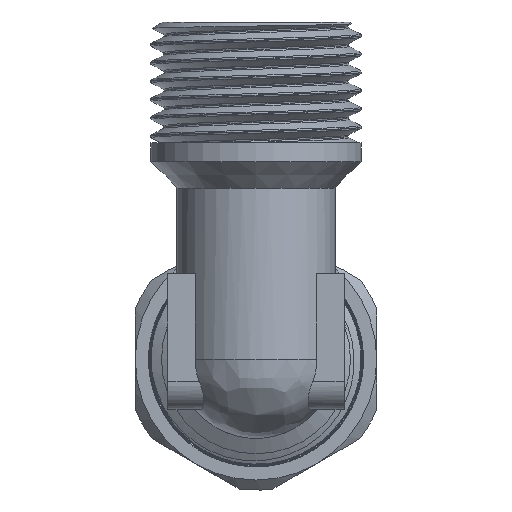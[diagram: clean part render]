
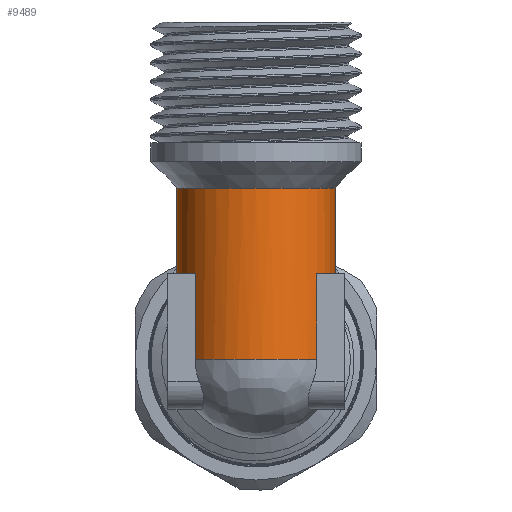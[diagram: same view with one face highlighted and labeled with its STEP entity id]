
A CAD part, front view. The second image highlights one B-rep face of the part: STEP entity #9489.
In plain terms, the highlighted cylindrical face has radius 7.85 mm (diameter 15.7 mm), a full revolution.
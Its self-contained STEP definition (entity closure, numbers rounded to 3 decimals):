
#946=ELLIPSE('',#10126,11.102,7.85);
#1205=CYLINDRICAL_SURFACE('',#10170,7.85);
#1339=FACE_OUTER_BOUND('',#1895,.T.);
#1895=EDGE_LOOP('',(#6689,#6690,#6691,#6692,#6693,#6694,#6695,#6696,#6697,
#6698,#6699,#6700,#6701,#6702));
#2518=LINE('',#12753,#3120);
#2521=LINE('',#12759,#3123);
#2524=LINE('',#12772,#3126);
#2529=LINE('',#12788,#3131);
#2533=LINE('',#12842,#3135);
#3120=VECTOR('',#10887,10.);
#3123=VECTOR('',#10892,10.);
#3126=VECTOR('',#10897,10.);
#3131=VECTOR('',#10904,10.);
#3135=VECTOR('',#10932,7.85);
#3668=CIRCLE('',#10109,7.85);
#3669=CIRCLE('',#10110,7.85);
#3670=CIRCLE('',#10111,7.85);
#3682=CIRCLE('',#10160,7.85);
#3683=CIRCLE('',#10161,7.85);
#3684=CIRCLE('',#10163,7.85);
#3687=CIRCLE('',#10169,7.85);
#3921=VERTEX_POINT('',#12466);
#3922=VERTEX_POINT('',#12468);
#3923=VERTEX_POINT('',#12470);
#3935=VERTEX_POINT('',#12503);
#3936=VERTEX_POINT('',#12505);
#3989=VERTEX_POINT('',#12752);
#3991=VERTEX_POINT('',#12758);
#3993=VERTEX_POINT('',#12764);
#3994=VERTEX_POINT('',#12771);
#3996=VERTEX_POINT('',#12777);
#3998=VERTEX_POINT('',#12786);
#3999=VERTEX_POINT('',#12790);
#4935=EDGE_CURVE('',#3922,#3921,#3668,.T.);
#4936=EDGE_CURVE('',#3923,#3922,#3669,.T.);
#4937=EDGE_CURVE('',#3921,#3923,#3670,.T.);
#4952=EDGE_CURVE('',#3935,#3936,#946,.T.);
#5033=EDGE_CURVE('',#3989,#3936,#2518,.T.);
#5036=EDGE_CURVE('',#3935,#3991,#2521,.T.);
#5040=EDGE_CURVE('',#3994,#3993,#2524,.T.);
#5046=EDGE_CURVE('',#3996,#3998,#2529,.T.);
#5047=EDGE_CURVE('',#3998,#3999,#3682,.T.);
#5049=EDGE_CURVE('',#3999,#3989,#3683,.T.);
#5050=EDGE_CURVE('',#3991,#3994,#3684,.T.);
#5055=EDGE_CURVE('',#3993,#3996,#3687,.T.);
#5056=EDGE_CURVE('',#3923,#3999,#2533,.T.);
#6689=ORIENTED_EDGE('',*,*,#4935,.T.);
#6690=ORIENTED_EDGE('',*,*,#4937,.T.);
#6691=ORIENTED_EDGE('',*,*,#5056,.T.);
#6692=ORIENTED_EDGE('',*,*,#5049,.T.);
#6693=ORIENTED_EDGE('',*,*,#5033,.T.);
#6694=ORIENTED_EDGE('',*,*,#4952,.F.);
#6695=ORIENTED_EDGE('',*,*,#5036,.T.);
#6696=ORIENTED_EDGE('',*,*,#5050,.T.);
#6697=ORIENTED_EDGE('',*,*,#5040,.T.);
#6698=ORIENTED_EDGE('',*,*,#5055,.T.);
#6699=ORIENTED_EDGE('',*,*,#5046,.T.);
#6700=ORIENTED_EDGE('',*,*,#5047,.T.);
#6701=ORIENTED_EDGE('',*,*,#5056,.F.);
#6702=ORIENTED_EDGE('',*,*,#4936,.T.);
#9489=ADVANCED_FACE('',(#1339),#1205,.T.);
#10109=AXIS2_PLACEMENT_3D('',#12469,#10723,#10724);
#10110=AXIS2_PLACEMENT_3D('',#12471,#10725,#10726);
#10111=AXIS2_PLACEMENT_3D('',#12472,#10727,#10728);
#10126=AXIS2_PLACEMENT_3D('',#12506,#10763,#10764);
#10160=AXIS2_PLACEMENT_3D('',#12791,#10907,#10908);
#10161=AXIS2_PLACEMENT_3D('',#12793,#10910,#10911);
#10163=AXIS2_PLACEMENT_3D('',#12795,#10914,#10915);
#10169=AXIS2_PLACEMENT_3D('',#12819,#10928,#10929);
#10170=AXIS2_PLACEMENT_3D('',#12841,#10930,#10931);
#10723=DIRECTION('center_axis',(0.,0.,-1.));
#10724=DIRECTION('ref_axis',(-1.,0.,0.));
#10725=DIRECTION('center_axis',(0.,0.,-1.));
#10726=DIRECTION('ref_axis',(-1.,0.,0.));
#10727=DIRECTION('center_axis',(0.,0.,-1.));
#10728=DIRECTION('ref_axis',(-1.,0.,0.));
#10763=DIRECTION('center_axis',(0.,0.707,-0.707));
#10764=DIRECTION('ref_axis',(0.,-0.707,-0.707));
#10887=DIRECTION('',(0.,0.,-1.));
#10892=DIRECTION('',(0.,0.,1.));
#10897=DIRECTION('',(0.,0.,-1.));
#10904=DIRECTION('',(0.,0.,1.));
#10907=DIRECTION('center_axis',(0.,0.,1.));
#10908=DIRECTION('ref_axis',(-1.,0.,0.));
#10910=DIRECTION('center_axis',(0.,0.,1.));
#10911=DIRECTION('ref_axis',(-1.,0.,0.));
#10914=DIRECTION('center_axis',(0.,0.,1.));
#10915=DIRECTION('ref_axis',(-1.,0.,0.));
#10928=DIRECTION('center_axis',(0.,0.,1.));
#10929=DIRECTION('ref_axis',(-1.,0.,0.));
#10930=DIRECTION('center_axis',(0.,0.,1.));
#10931=DIRECTION('ref_axis',(-1.,0.,0.));
#10932=DIRECTION('',(0.,0.,-1.));
#12466=CARTESIAN_POINT('',(0.,-20.65,17.));
#12468=CARTESIAN_POINT('',(0.,-36.35,17.));
#12469=CARTESIAN_POINT('Origin',(0.,-28.5,17.));
#12470=CARTESIAN_POINT('',(7.85,-28.5,17.));
#12471=CARTESIAN_POINT('Origin',(0.,-28.5,17.));
#12472=CARTESIAN_POINT('Origin',(0.,-28.5,17.));
#12503=CARTESIAN_POINT('',(-6.052,-23.5,5.));
#12505=CARTESIAN_POINT('',(6.052,-23.5,5.));
#12506=CARTESIAN_POINT('Origin',(0.,-28.5,0.));
#12752=CARTESIAN_POINT('',(6.052,-23.5,8.5));
#12753=CARTESIAN_POINT('',(6.052,-23.5,0.));
#12758=CARTESIAN_POINT('',(-6.052,-23.5,8.5));
#12759=CARTESIAN_POINT('',(-6.052,-23.5,0.));
#12764=CARTESIAN_POINT('',(-6.052,-33.5,0.));
#12771=CARTESIAN_POINT('',(-6.052,-33.5,8.5));
#12772=CARTESIAN_POINT('',(-6.052,-33.5,0.));
#12777=CARTESIAN_POINT('',(6.052,-33.5,0.));
#12786=CARTESIAN_POINT('',(6.052,-33.5,8.5));
#12788=CARTESIAN_POINT('',(6.052,-33.5,0.));
#12790=CARTESIAN_POINT('',(7.85,-28.5,8.5));
#12791=CARTESIAN_POINT('Origin',(0.,-28.5,8.5));
#12793=CARTESIAN_POINT('Origin',(0.,-28.5,8.5));
#12795=CARTESIAN_POINT('Origin',(0.,-28.5,8.5));
#12819=CARTESIAN_POINT('Origin',(0.,-28.5,0.));
#12841=CARTESIAN_POINT('Origin',(0.,-28.5,0.));
#12842=CARTESIAN_POINT('',(7.85,-28.5,0.));
